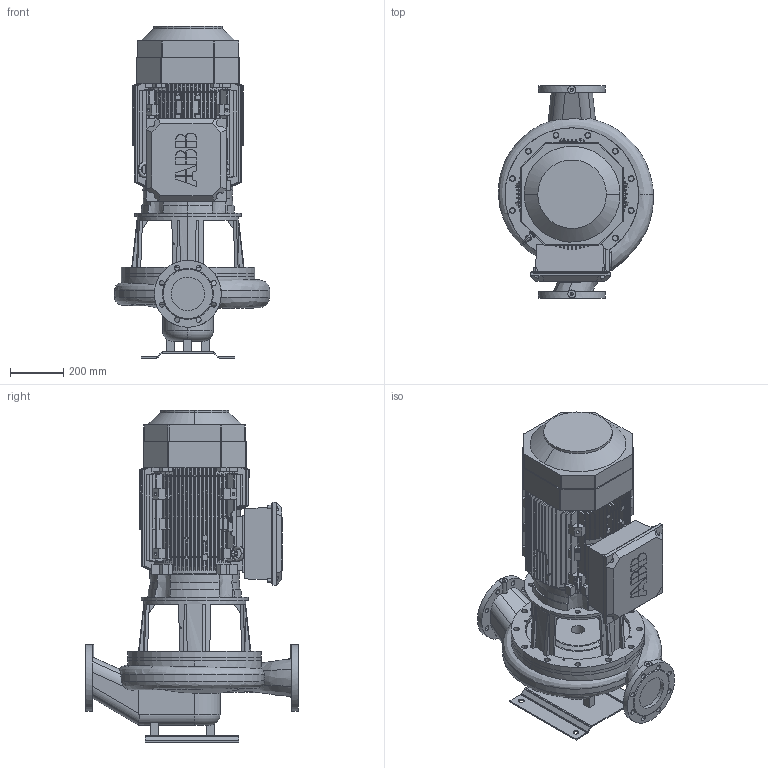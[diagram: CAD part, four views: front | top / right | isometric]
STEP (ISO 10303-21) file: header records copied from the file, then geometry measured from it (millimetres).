
FILE_DESCRIPTION(('STEP AP214'),'1');
FILE_NAME('export.stp','2018-05-30T07:09:42',(' '),(' '),'Spatial InterOp 3D',' ',' ');
FILE_SCHEMA(('AUTOMOTIVE_DESIGN { 1 0 10303 214 1 1 1 1 }'));
Length unit declared in the file: millimetre
Products named in the file (17): W_L125S4SD300; P100935; P100342; V_PPL125S; ABB-30kW_1500rpm; -simplified-simplified_parts_Sta; 3GZV183002-193006-183002-183999_; 3GZV311000-999999-324000-324001_; -simplified-simplified_parts_Ter; 3GZV244000-310999-294000-299999_; -simplified-simplified_parts_M32; -simplified-simplified_parts_Fan; Implementation-STANDARD_PARTS_Li; V_TLL125SAL1250
Assembly tree (16 placements, depth 3):
  W_L125S4SD300
    P100935
    P100342
    V_PPL125S
    ABB-30kW_1500rpm
      -simplified-simplified_parts_Sta
      3GZV183002-193006-183002-183999_
      3GZV311000-999999-324000-324001_
      -simplified-simplified_parts_Ter
      -simplified-simplified_parts_Ter
      3GZV244000-310999-294000-299999_
      3GZV244000-310999-294000-299999_
      3GZV244000-310999-294000-299999_
      -simplified-simplified_parts_M32
      -simplified-simplified_parts_Fan
      Implementation-STANDARD_PARTS_Li
    V_TLL125SAL1250
Bounding box: 581.03 x 800 x 1242.6 mm (x, y, z)
Volume: 124698273.7 mm3; surface area: 6288656.1 mm2
Topology: 11 solids, 242 shells, 2055 faces, 6258 edges, 4453 vertices
Faces by surface type: bspline 1683, cylinder 212, plane 110, cone 44, torus 6
Entity records: 112818 total; most frequent: CARTESIAN_POINT 37542, ORIENTED_EDGE 11290, EDGE_CURVE 6181, STYLED_ITEM 6164, PRESENTATION_STYLE_ASSIGNMENT 6164, COLOUR_RGB 6164, VERTEX_POINT 4398, CURVE_STYLE 4101
